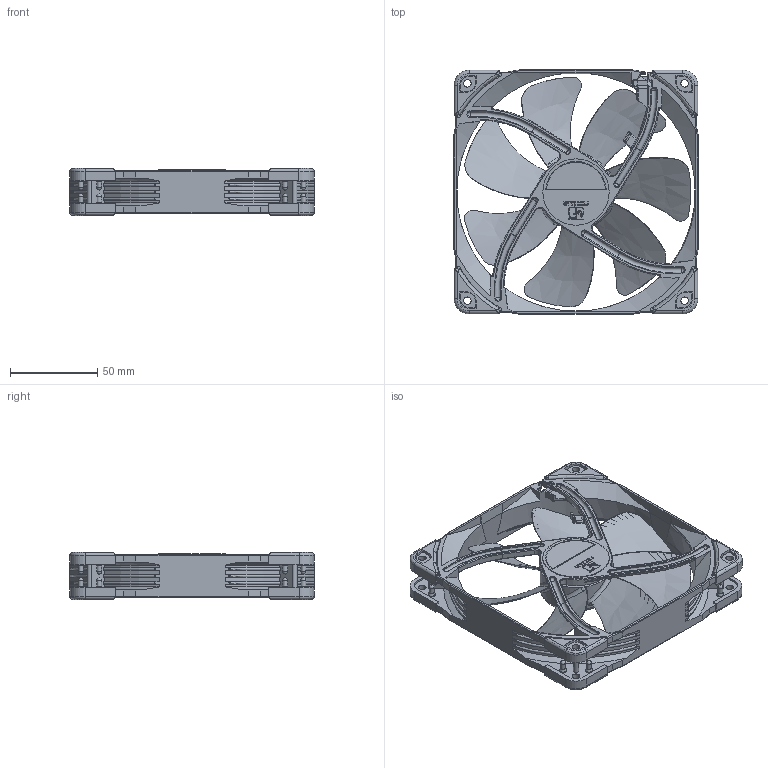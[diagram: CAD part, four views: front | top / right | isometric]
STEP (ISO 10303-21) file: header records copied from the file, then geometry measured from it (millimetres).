
FILE_DESCRIPTION(/* description */ ('140mm Desk Fan'),/* implementation_level */ '2;1');
FILE_NAME(/* name */ 'NF-A14_Public-CAD',/* time_stamp */ '2026-04-09T17:38:47+02:00',/* author */ ('Andreas'),/* organization */ ('Rascom'),/* preprocessor_version */ 'ST-DEVELOPER v18.102',/* originating_system */ 'Solid Edge',/* authorisation */ 'Unknown');
FILE_SCHEMA (('AUTOMOTIVE_DESIGN {1 0 10303 214 3 1 1}'));
Products named in the file (5): NF-A14_Public-CAD; A14_Frame_Public; A14_Impeller_Public; NA-AVP1; Fan-Label-D38mm-Regular
Assembly tree (11 placements, depth 2):
  NF-A14_Public-CAD
    A14_Frame_Public
    A14_Impeller_Public
    NA-AVP1  x8
    Fan-Label-D38mm-Regular
Bounding box: 140 x 140.1 x 27 mm (x, y, z)
Volume: 108471.5 mm3; surface area: 90008.1 mm2
Topology: 11 solids, 11 shells, 1526 faces, 3996 edges, 2517 vertices
Faces by surface type: plane 534, cylinder 527, bspline 180, torus 176, cone 69, sphere 40
Full cylindrical faces by diameter (mm): 3 x32, 4 x8, 4.3 x8, 38 x2, 41 x1
Entity records: 51223 total; most frequent: CARTESIAN_POINT 22011, ORIENTED_EDGE 6198, DIRECTION 5328, EDGE_CURVE 3099, AXIS2_PLACEMENT_3D 2009, VERTEX_POINT 1977, EDGE_LOOP 1334, FACE_BOUND 1334
